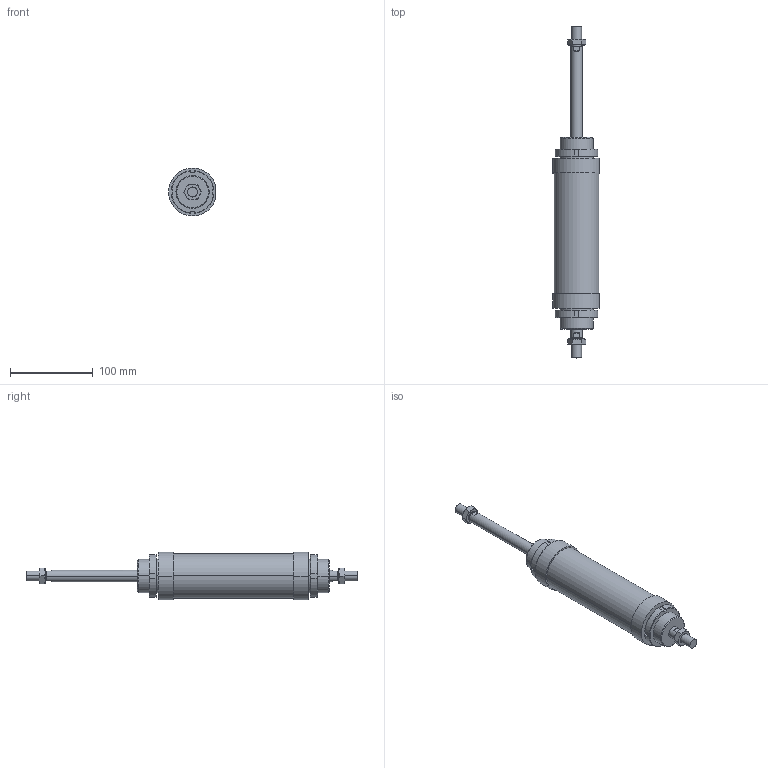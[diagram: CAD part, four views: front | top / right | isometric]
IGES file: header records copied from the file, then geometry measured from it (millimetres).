
Global section: file name: No Iges File Name specified; native system: AutoDesk Inventor R6.0; preprocessor: AutoDesk Inventor Iges Exporter R6.0; author: No Author specified; organization: No Organization specified; date: 20030403.073010; units: millimetre
Bounding box: 56.6 x 402 x 57.85 mm (x, y, z)
Volume: 532037.1 mm3; surface area: 82741.4 mm2
Topology: 6 solids, 6 shells, 182 faces, 424 edges, 264 vertices
Faces by surface type: plane 66, cone 52, bspline 30, cylinder 28, revolution 6
